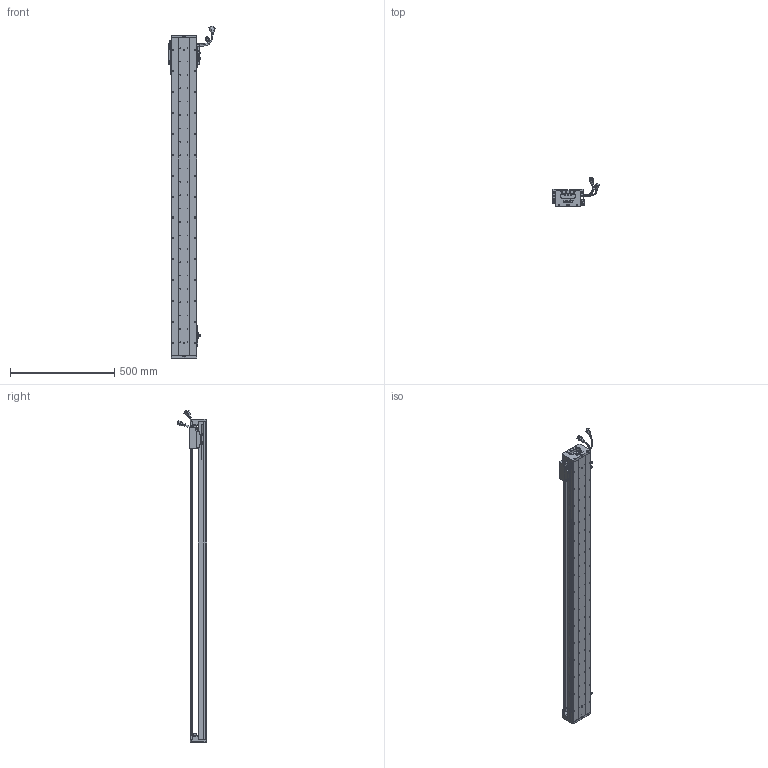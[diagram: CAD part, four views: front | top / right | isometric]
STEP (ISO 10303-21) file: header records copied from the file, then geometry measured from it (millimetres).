
FILE_DESCRIPTION (( 'STEP AP203' ), '1' );
FILE_NAME ('Z1-RY120D-1-L500-B-K.SLDASM_1350.step', '2021-05-17T03:47:14', ( '盈信电脑' ), ( '东莞市道滘镇水果街19号' ), 'SwSTEP 2.0', 'SolidWorks 2016', '' );
FILE_SCHEMA (( 'CONFIG_CONTROL_DESIGN' ));
Length unit declared in the file: millimetre
Products named in the file (37): SHIELDPLATE; Z1-RY120铝滑块（21款）; Z-RY120D詩湍狟揤裔; HARNESS; 672嫖萇羲壽假蚾釱; 120-Z-臏賑輸盄裔(21遴); SEAL-Part-1; 080黍杅芛假蚾釱21遴; SCREW-M1.6-1; Z-120詩湍傷裔啣; HOLDER0; SCALE-Part-2; COVER; PBU_SHEET; SCREW-M1.6; SCALE-Part-1; HARNESS-Part-2; PSLH080_PSLF2; SCREW-M1.7-1; Z-RY120D詩湍奻揤裔; LABEL-Part-1; SCREW-M1.6-2; Z1-RY120-500-倰第菁釱_1350; COVER-Part-1; SCREW-M1.7; Z1-RY120D-1-L500-B-K.SLDASM_1350; 140蚥薯蝶輸; SEAL; 覜茼ん672; SCREW-M1.6-3; LABEL; HARNESS-Part-1; 140雄赽晤鎢ん堤盄; RY100FB-遵嫖萇覜茼え; Z1-RY120-L500詩湍100mm遵_1350; SCALE; 榋妏寠巭燃_暯_M2_2
Assembly tree (43 placements, depth 4):
  Z1-RY120D-1-L500-B-K.SLDASM_1350
    Z1-RY120-500-倰第菁釱_1350
    覜茼ん672  x3
    672嫖萇羲壽假蚾釱  x2
    Z1-RY120铝滑块（21款）
    PSLH080_PSLF2
      SCALE
        SCALE-Part-1
        SCALE-Part-2
      HARNESS
        HARNESS-Part-1
        HARNESS-Part-2
      LABEL
        LABEL-Part-1
      COVER
        COVER-Part-1
      SEAL
        SEAL-Part-1
      榋妏寠巭燃_暯_M2_2
      SHIELDPLATE
      SCREW-M1.7
      SCREW-M1.7-1
      PBU_SHEET
      SCREW-M1.6
      SCREW-M1.6-1
      SCREW-M1.6-2
      SCREW-M1.6-3
      HOLDER0
    080黍杅芛假蚾釱21遴
    120-Z-臏賑輸盄裔(21遴)
    140雄赽晤鎢ん堤盄
    140蚥薯蝶輸  x2
    RY100FB-遵嫖萇覜茼え
    Z-120詩湍傷裔啣  x2
    Z-RY120D詩湍奻揤裔  x2
    Z-RY120D詩湍狟揤裔  x2
    Z1-RY120-L500詩湍100mm遵_1350
Bounding box: 222.86 x 140.94 x 1588.99 mm (x, y, z)
Volume: 3757723.9 mm3; surface area: 1334183.9 mm2
Topology: 38 solids, 38 shells, 3011 faces, 8322 edges, 5258 vertices
Faces by surface type: cylinder 1438, plane 1153, cone 298, torus 69, bspline 53
Entity records: 94557 total; most frequent: CARTESIAN_POINT 26944, ORIENTED_EDGE 13572, DIRECTION 12894, EDGE_CURVE 6786, AXIS2_PLACEMENT_3D 4714, VERTEX_POINT 4378, LINE 3466, VECTOR 3466
